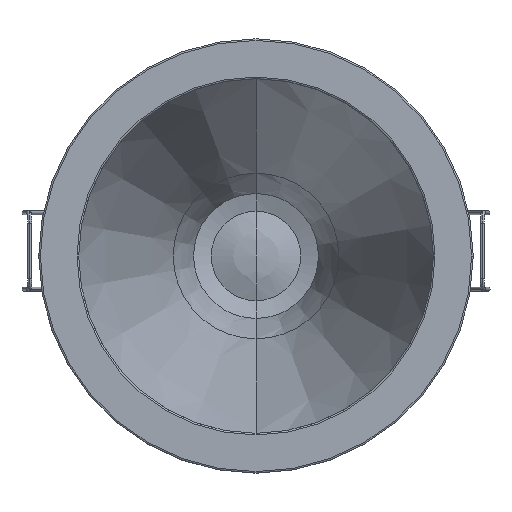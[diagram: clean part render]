
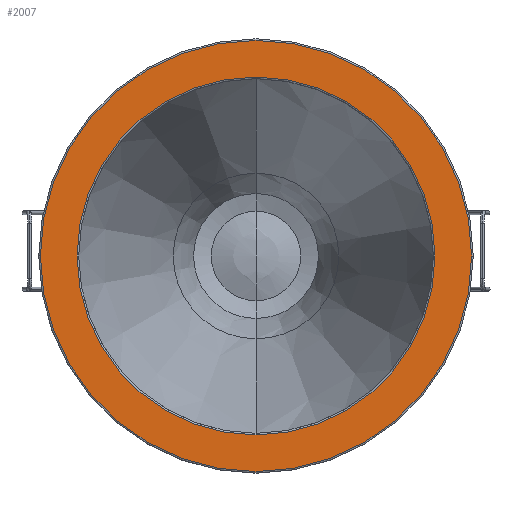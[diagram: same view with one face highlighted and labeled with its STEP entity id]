
A CAD part, front view. The second image highlights one B-rep face of the part: STEP entity #2007.
In plain terms, the highlighted planar face has unit normal (0, -1, 0).
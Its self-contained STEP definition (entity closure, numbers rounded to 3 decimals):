
#23=CARTESIAN_POINT('',(0.,0.,0.));
#24=DIRECTION('',(0.,-1.,0.));
#25=DIRECTION('',(1.,0.,0.));
#26=AXIS2_PLACEMENT_3D('',#23,#24,#25);
#32=CARTESIAN_POINT('',(0.,0.,0.));
#33=DIRECTION('',(0.,-1.,0.));
#34=DIRECTION('',(-1.,0.,0.));
#35=AXIS2_PLACEMENT_3D('',#32,#33,#34);
#40=CARTESIAN_POINT('',(0.,0.,0.));
#41=DIRECTION('',(0.,1.,0.));
#42=DIRECTION('',(0.,0.,1.));
#43=AXIS2_PLACEMENT_3D('',#40,#41,#42);
#48=CARTESIAN_POINT('',(0.,0.,0.));
#49=DIRECTION('',(0.,1.,0.));
#50=DIRECTION('',(0.,0.,-1.));
#51=AXIS2_PLACEMENT_3D('',#48,#49,#50);
#1966=CARTESIAN_POINT('',(40.8,0.,0.));
#1967=CARTESIAN_POINT('',(-40.8,0.,0.));
#1968=VERTEX_POINT('',#1966);
#1969=VERTEX_POINT('',#1967);
#1982=CARTESIAN_POINT('',(0.,0.,33.854));
#1983=CARTESIAN_POINT('',(0.,0.,-33.854));
#1984=VERTEX_POINT('',#1982);
#1985=VERTEX_POINT('',#1983);
#1990=CARTESIAN_POINT('',(0.,0.,0.));
#1991=DIRECTION('',(0.,1.,0.));
#1992=DIRECTION('',(1.,0.,0.));
#1993=AXIS2_PLACEMENT_3D('',#1990,#1991,#1992);
#1994=PLANE('',#1993);
#1996=ORIENTED_EDGE('',*,*,#1995,.F.);
#1998=ORIENTED_EDGE('',*,*,#1997,.F.);
#1999=EDGE_LOOP('',(#1996,#1998));
#2000=FACE_OUTER_BOUND('',#1999,.F.);
#2002=ORIENTED_EDGE('',*,*,#2001,.F.);
#2004=ORIENTED_EDGE('',*,*,#2003,.F.);
#2005=EDGE_LOOP('',(#2002,#2004));
#2006=FACE_BOUND('',#2005,.F.);
#2007=ADVANCED_FACE('',(#2000,#2006),#1994,.F.);
#27=CIRCLE('',#26,40.8);
#36=CIRCLE('',#35,40.8);
#44=CIRCLE('',#43,33.854);
#52=CIRCLE('',#51,33.854);
#1995=EDGE_CURVE('',#1968,#1969,#27,.T.);
#1997=EDGE_CURVE('',#1969,#1968,#36,.T.);
#2001=EDGE_CURVE('',#1984,#1985,#44,.T.);
#2003=EDGE_CURVE('',#1985,#1984,#52,.T.);
